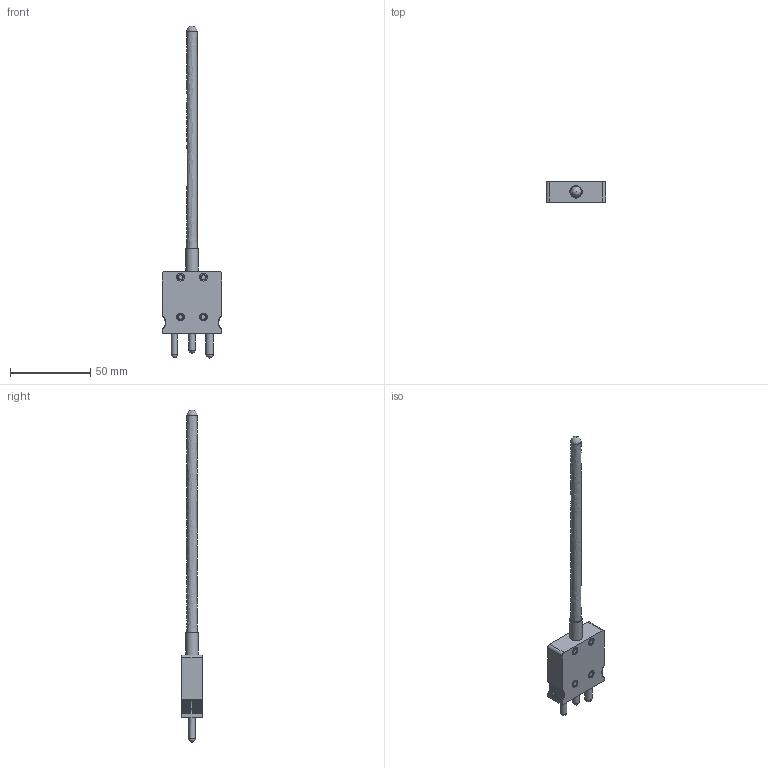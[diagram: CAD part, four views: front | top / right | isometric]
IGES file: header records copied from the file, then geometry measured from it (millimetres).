
Global section: file name: Male-Plug-RTD-IGS; native system: Autodesk Inventor 2014; preprocessor: unknown; author: Charles; date: 20160114.112228; units: inch
Bounding box: 37.08 x 12.8 x 206.48 mm (x, y, z)
Volume: 23341.7 mm3; surface area: 8559.6 mm2
Topology: 1 solids, 1 shells, 472 faces, 1236 edges, 822 vertices
Faces by surface type: bspline 472
